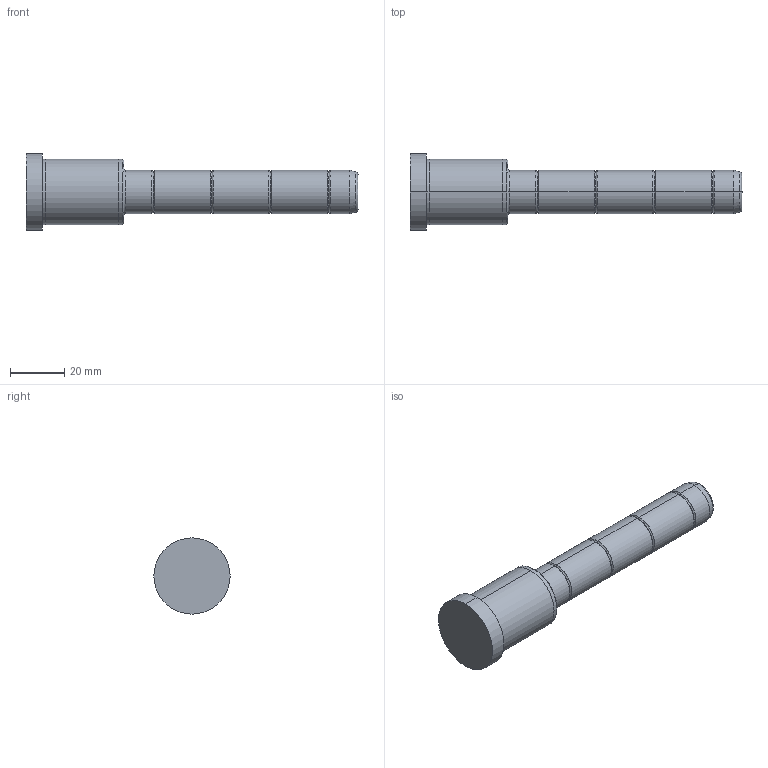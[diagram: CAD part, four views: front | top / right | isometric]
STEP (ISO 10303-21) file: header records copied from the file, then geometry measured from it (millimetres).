
FILE_DESCRIPTION( ( 'STEP AP203' ), '1' );
FILE_NAME( 'D:/Delta 3 D/D02/16/D02 - 16x36x86.step', '2003-01-04T13:13:40', ( ' ' ), ( ' ' ), 'XStep 1.0', ' ', ' ' );
FILE_SCHEMA( ( 'CONFIG_CONTROL_DESIGN' ) );
Length unit declared in the file: metre
Products named in the file (1): 1
Bounding box: 122 x 28 x 28 mm (x, y, z)
Volume: 34430.9 mm3; surface area: 8365 mm2
Topology: 1 solids, 1 shells, 48 faces, 94 edges, 52 vertices
Faces by surface type: bspline 26, revolution 22
Entity records: 1523 total; most frequent: CARTESIAN_POINT 617, ORIENTED_EDGE 188, DIRECTION 150, EDGE_CURVE 94, AXIS2_PLACEMENT_3D 53, EDGE_LOOP 52, VERTEX_POINT 52, CIRCLE 52
